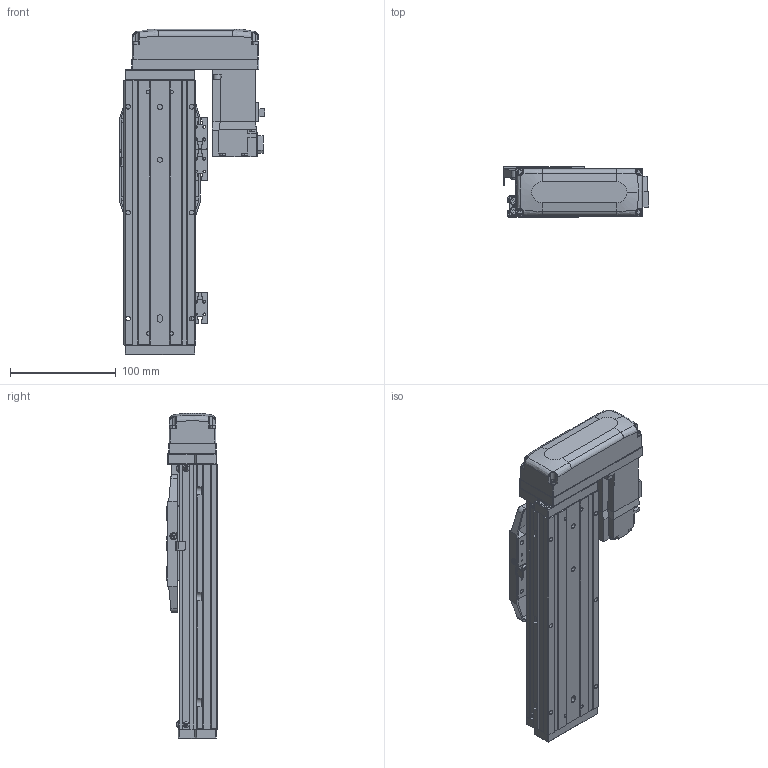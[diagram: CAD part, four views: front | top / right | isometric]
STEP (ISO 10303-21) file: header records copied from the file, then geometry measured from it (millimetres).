
FILE_DESCRIPTION (( 'STEP AP203' ), '1' );
FILE_NAME ('CTHA60-100-BL-M10-C4L.step', '2022-03-19T06:13:11', ( '微软用户' ), ( '微软中国' ), 'SwSTEP 2.0', 'SolidWorks 2020', '' );
FILE_SCHEMA (( 'CONFIG_CONTROL_DESIGN' ));
Length unit declared in the file: millimetre
Products named in the file (18): CTHA60-002; CTHA60-001_250; GBT 70.1-M4×16; CTHA60-031; CTHA60-004; GBT77-2000 M3×3; CTHA60-006-1; CTHA60-005; GBT 70.1-M3℅6; CTHA60-033; GB¨uT 70.2-M3¡Á6_M3¡Á6; GBT 70.3-M3℅6; CTHA60-100-BL-M10-C4L; EE_SX911P_R; CTHA60-016; CTHA60-017; HG-KR13（三菱）; CTHA60-021
Assembly tree (54 placements, depth 2):
  CTHA60-100-BL-M10-C4L
    CTHA60-001_250
    CTHA60-004
    CTHA60-005
    GB¨uT 70.2-M3¡Á6_M3¡Á6  x10
    EE_SX911P_R  x3
    CTHA60-017  x3
    CTHA60-021  x2
    GBT 70.1-M4×16  x10
    GBT77-2000 M3×3  x6
    GBT 70.1-M3℅6  x6
    GBT 70.3-M3℅6  x4
    CTHA60-016  x2
    HG-KR13（三菱）
    CTHA60-002
    CTHA60-031
    CTHA60-006-1
    CTHA60-033
Bounding box: 137.1 x 48 x 307 mm (x, y, z)
Volume: 695028.4 mm3; surface area: 230590.4 mm2
Topology: 56 solids, 56 shells, 2434 faces, 5813 edges, 3577 vertices
Faces by surface type: plane 1401, cylinder 553, cone 332, torus 92, bspline 32, sphere 24
Entity records: 42427 total; most frequent: CARTESIAN_POINT 8250, DIRECTION 6506, ORIENTED_EDGE 6434, EDGE_CURVE 3217, VECTOR 2274, LINE 2274, AXIS2_PLACEMENT_3D 2116, VERTEX_POINT 2036
